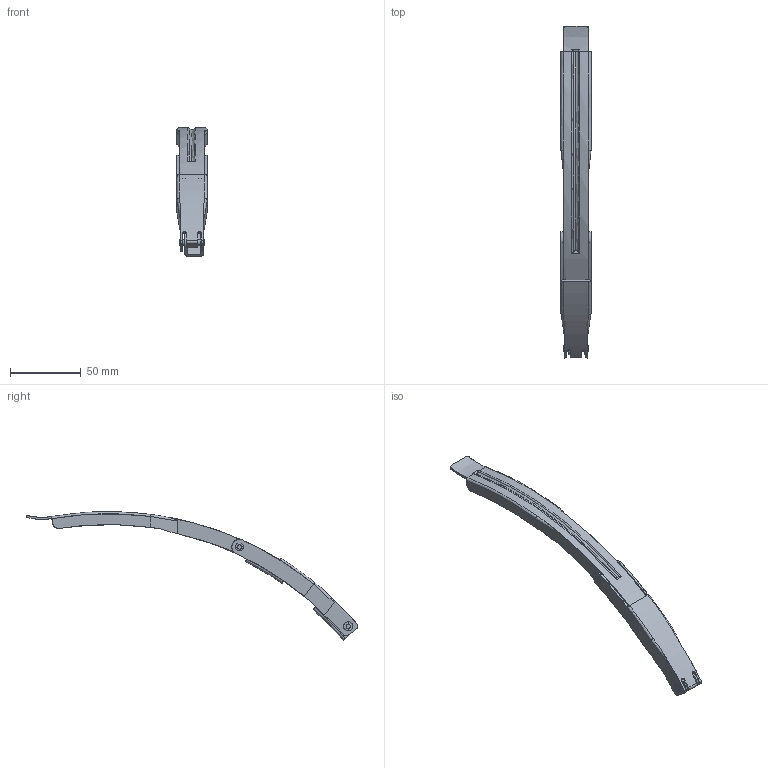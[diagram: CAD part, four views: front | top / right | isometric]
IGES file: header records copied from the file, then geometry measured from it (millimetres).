
Start section: SolidWorks IGES file using analytic representation for surfaces
Global section: file name: C:\Users\cbrechard\Desktop\GO 39.IGS; native system: SolidWorks 2017; preprocessor: SolidWorks 2017; author: cbrechard; date: 191016.143111; units: millimetre
Bounding box: 21.9 x 235.1 x 91.03 mm (x, y, z)
Surface area: 26796.9 mm2 (no closed solid volume)
Topology: 0 solids, 0 shells, 239 faces, 4512 edges, 4512 vertices
Faces by surface type: revolution 126, bspline 113
